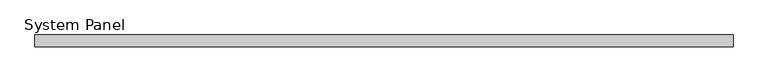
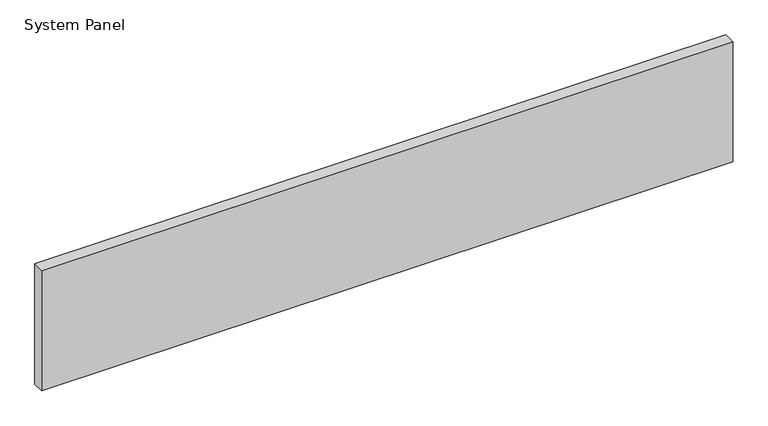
"""IFC4 building model written with IfcOpenShell, lengths in millimetres: plate geometry, System Panel : Inspire 100mm Horizontal - Plain RHEA-PIR."""

from ifc_helpers import new_model, si_unit, origin, origin_with_axes, place, context, project, spatial, polyline, outline, extrude, source, transform, mapped, element, save


def system_panel_6c35d96b(model_context):
    return source(origin(), model_context, "Body", "SweptSolid", [
        extrude(outline(polyline([(2990.0, -100.0), (-2990.0, -100.0), (-2990.0, 0.0), (2990.0, 0.0), (2990.0, -100.0)])), origin_with_axes(), (0.0, 0.0, 1.0), 1100.0),
    ])


if __name__ == "__main__":
    model = new_model("IFC4")
    model_context = context("Model", 3, world=origin())
    ifc_project = project(units=[si_unit("LENGTHUNIT", "METRE", prefix="MILLI")], contexts=[model_context])
    site = spatial("IfcSite", under=ifc_project)
    building = spatial("IfcBuilding", under=site)
    placement = place(None, origin())
    system_panel_shape = system_panel_6c35d96b(model_context)
    element("IfcPlate", 1, ObjectType="System Panel : Inspire 100mm Horizontal - Plain RHEA-PIR", at=placement, inside=building, context=model_context, shape_type="MappedRepresentation", body=[
        mapped(system_panel_shape, transform((0.0, 0.0, 0.0), x_axis=(1.0, 0.0, 0.0), y_axis=(0.0, 1.0, 0.0), z_axis=(0.0, 0.0, 1.0))),
    ])
    save(model, "model.ifc")
